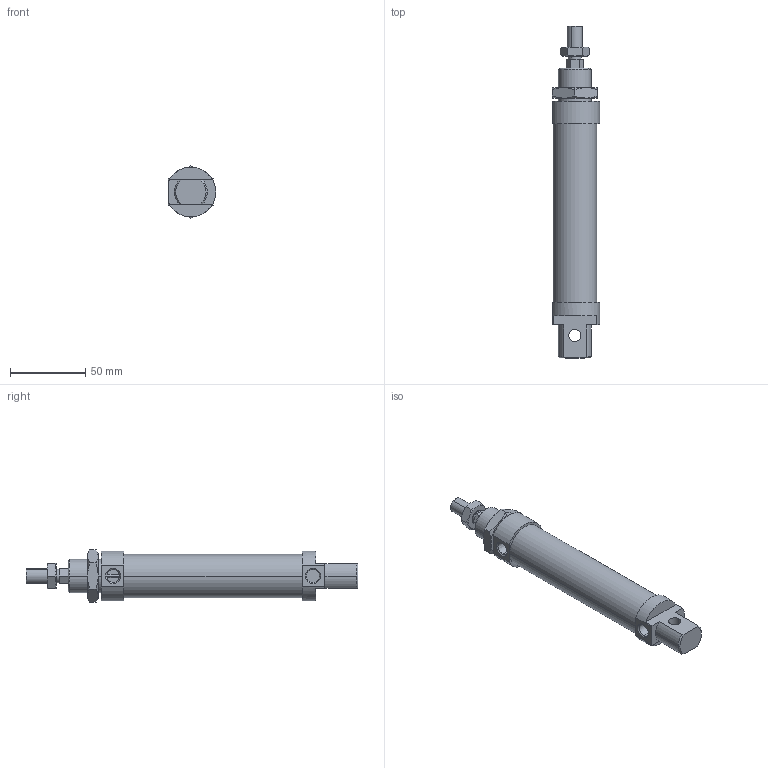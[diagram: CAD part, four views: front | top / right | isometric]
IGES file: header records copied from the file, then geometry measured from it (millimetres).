
Global section: file name: No Iges File Name specified; native system: AutoDesk Inventor R6.0; preprocessor: AutoDesk Inventor Iges Exporter R6.0; author: No Author specified; organization: No Organization specified; date: 20030405.074201; units: millimetre
Bounding box: 31.5 x 221 x 34.64 mm (x, y, z)
Volume: 121391.5 mm3; surface area: 31580.8 mm2
Topology: 4 solids, 4 shells, 125 faces, 285 edges, 174 vertices
Faces by surface type: plane 46, cone 38, bspline 21, cylinder 16, revolution 4
